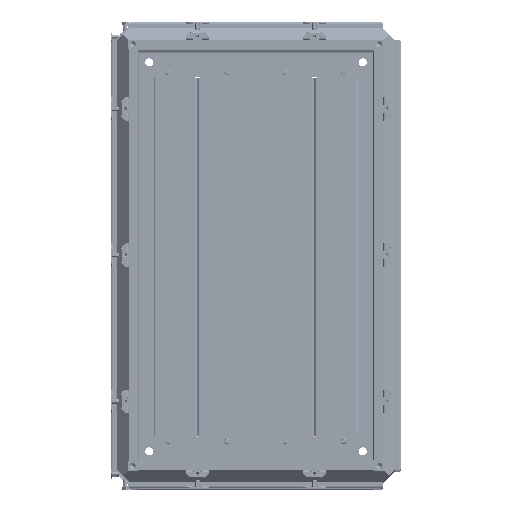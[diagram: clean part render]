
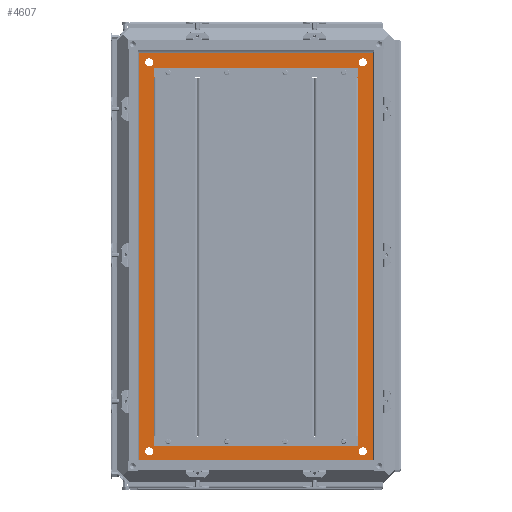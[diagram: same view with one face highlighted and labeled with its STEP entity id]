
A CAD part, top view. The second image highlights one B-rep face of the part: STEP entity #4607.
In plain terms, the highlighted planar face has unit normal (0, 0, 1).
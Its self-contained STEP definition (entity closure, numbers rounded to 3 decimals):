
#4607=ADVANCED_FACE('',(#17059,#17061,#17063,#17065,#17067,#17069),#17071,.F.);
#17059=FACE_BOUND('',#17060,.T.);
#17060=EDGE_LOOP('',(#112233,#112234,#112235,#112236));
#17061=FACE_BOUND('',#17062,.T.);
#17062=EDGE_LOOP('',(#112237,#112238,#112239,#112240));
#17063=FACE_BOUND('',#17064,.T.);
#17064=EDGE_LOOP('',(#112241));
#17065=FACE_BOUND('',#17066,.T.);
#17066=EDGE_LOOP('',(#112242));
#17067=FACE_BOUND('',#17068,.T.);
#17068=EDGE_LOOP('',(#112243));
#17069=FACE_BOUND('',#17070,.T.);
#17070=EDGE_LOOP('',(#112244));
#17071=PLANE('',#17072);
#17072=AXIS2_PLACEMENT_3D('',#17073,#17074,#17075);
#17073=CARTESIAN_POINT('',(0.,0.,-47.5));
#17074=DIRECTION('',(0.,0.,-1.));
#17075=DIRECTION('',(0.,1.,0.));
#112233=ORIENTED_EDGE('',*,*,#169999,.F.);
#112234=ORIENTED_EDGE('',*,*,#170000,.F.);
#112235=ORIENTED_EDGE('',*,*,#170001,.T.);
#112236=ORIENTED_EDGE('',*,*,#170002,.T.);
#112237=ORIENTED_EDGE('',*,*,#170003,.T.);
#112238=ORIENTED_EDGE('',*,*,#170004,.F.);
#112239=ORIENTED_EDGE('',*,*,#170005,.F.);
#112240=ORIENTED_EDGE('',*,*,#170006,.F.);
#112241=ORIENTED_EDGE('',*,*,#170007,.T.);
#112242=ORIENTED_EDGE('',*,*,#170008,.F.);
#112243=ORIENTED_EDGE('',*,*,#170009,.F.);
#112244=ORIENTED_EDGE('',*,*,#170010,.T.);
#169999=EDGE_CURVE('',#199790,#199791,#199792,.F.);
#170000=EDGE_CURVE('',#199793,#199790,#199794,.F.);
#170001=EDGE_CURVE('',#199793,#199795,#199796,.F.);
#170002=EDGE_CURVE('',#199795,#199791,#199797,.F.);
#170003=EDGE_CURVE('',#199798,#199799,#199800,.F.);
#170004=EDGE_CURVE('',#199801,#199799,#199802,.F.);
#170005=EDGE_CURVE('',#199803,#199801,#199804,.F.);
#170006=EDGE_CURVE('',#199798,#199803,#199805,.F.);
#170007=EDGE_CURVE('',#199806,#199806,#199807,.T.);
#170008=EDGE_CURVE('',#199808,#199808,#199809,.T.);
#170009=EDGE_CURVE('',#199810,#199810,#199811,.T.);
#170010=EDGE_CURVE('',#199812,#199812,#199813,.T.);
#199790=VERTEX_POINT('',#251723);
#199791=VERTEX_POINT('',#251724);
#199792=LINE('',#251725,#251726);
#199793=VERTEX_POINT('',#251728);
#199794=LINE('',#251729,#251730);
#199795=VERTEX_POINT('',#251732);
#199796=LINE('',#251733,#251734);
#199797=LINE('',#251736,#251737);
#199798=VERTEX_POINT('',#251739);
#199799=VERTEX_POINT('',#251740);
#199800=LINE('',#251741,#251742);
#199801=VERTEX_POINT('',#251744);
#199802=LINE('',#251745,#251746);
#199803=VERTEX_POINT('',#251748);
#199804=LINE('',#251749,#251750);
#199805=LINE('',#251752,#251753);
#199806=VERTEX_POINT('',#251755);
#199807=CIRCLE('',#251756,7.);
#199808=VERTEX_POINT('',#251760);
#199809=CIRCLE('',#251761,7.);
#199810=VERTEX_POINT('',#251765);
#199811=CIRCLE('',#251766,7.);
#199812=VERTEX_POINT('',#251770);
#199813=CIRCLE('',#251771,7.);
#251723=CARTESIAN_POINT('',(-1.6,1.6,-47.5));
#251724=CARTESIAN_POINT('',(-400.4,1.6,-47.5));
#251725=CARTESIAN_POINT('',(-400.4,1.6,-47.5));
#251726=VECTOR('',#251727,1.);
#251727=DIRECTION('',(1.,0.,0.));
#251728=CARTESIAN_POINT('',(-1.6,700.4,-47.5));
#251729=CARTESIAN_POINT('',(-1.6,1.6,-47.5));
#251730=VECTOR('',#251731,1.);
#251731=DIRECTION('',(0.,1.,0.));
#251732=CARTESIAN_POINT('',(-400.4,700.4,-47.5));
#251733=CARTESIAN_POINT('',(-400.4,700.4,-47.5));
#251734=VECTOR('',#251735,1.);
#251735=DIRECTION('',(1.,0.,0.));
#251736=CARTESIAN_POINT('',(-400.4,1.6,-47.5));
#251737=VECTOR('',#251738,1.);
#251738=DIRECTION('',(0.,1.,0.));
#251739=CARTESIAN_POINT('',(-39.4,39.4,-47.5));
#251740=CARTESIAN_POINT('',(-362.6,39.4,-47.5));
#251741=CARTESIAN_POINT('',(-362.6,39.4,-47.5));
#251742=VECTOR('',#251743,1.);
#251743=DIRECTION('',(1.,0.,0.));
#251744=CARTESIAN_POINT('',(-362.6,662.6,-47.5));
#251745=CARTESIAN_POINT('',(-362.6,39.4,-47.5));
#251746=VECTOR('',#251747,1.);
#251747=DIRECTION('',(0.,1.,0.));
#251748=CARTESIAN_POINT('',(-39.4,662.6,-47.5));
#251749=CARTESIAN_POINT('',(-362.6,662.6,-47.5));
#251750=VECTOR('',#251751,1.);
#251751=DIRECTION('',(1.,0.,0.));
#251752=CARTESIAN_POINT('',(-39.4,662.6,-47.5));
#251753=VECTOR('',#251754,1.);
#251754=DIRECTION('',(0.,-1.,0.));
#251755=CARTESIAN_POINT('',(-18.5,25.5,-47.5));
#251756=AXIS2_PLACEMENT_3D('',#251757,#251758,#251759);
#251757=CARTESIAN_POINT('',(-18.5,18.5,-47.5));
#251758=DIRECTION('',(0.,0.,-1.));
#251759=DIRECTION('',(0.,1.,0.));
#251760=CARTESIAN_POINT('',(-383.5,25.5,-47.5));
#251761=AXIS2_PLACEMENT_3D('',#251762,#251763,#251764);
#251762=CARTESIAN_POINT('',(-383.5,18.5,-47.5));
#251763=DIRECTION('',(0.,0.,1.));
#251764=DIRECTION('',(0.,1.,0.));
#251765=CARTESIAN_POINT('',(-18.5,676.5,-47.5));
#251766=AXIS2_PLACEMENT_3D('',#251767,#251768,#251769);
#251767=CARTESIAN_POINT('',(-18.5,683.5,-47.5));
#251768=DIRECTION('',(0.,0.,1.));
#251769=DIRECTION('',(0.,-1.,0.));
#251770=CARTESIAN_POINT('',(-383.5,676.5,-47.5));
#251771=AXIS2_PLACEMENT_3D('',#251772,#251773,#251774);
#251772=CARTESIAN_POINT('',(-383.5,683.5,-47.5));
#251773=DIRECTION('',(0.,0.,-1.));
#251774=DIRECTION('',(0.,-1.,0.));
